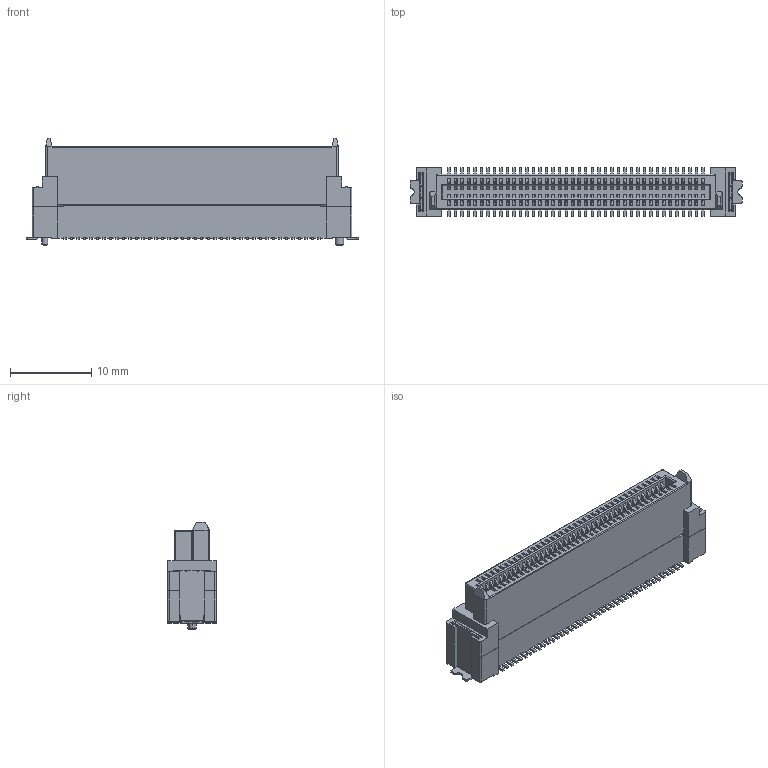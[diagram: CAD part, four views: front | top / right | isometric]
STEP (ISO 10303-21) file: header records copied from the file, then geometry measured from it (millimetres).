
FILE_DESCRIPTION(('CATIA V5 STEP Exchange'),'2;1');
FILE_NAME('F:\黄富鸿\板对板\PBB08D\母座\H11.4\HC-PBB08D-1-80-F-H11.4-XX-R-P-06 (BTB0.8 单槽 D型母座 立贴 带柱 编带)-HCTL.stp','2026-02-04T10:03:47+00:00',('none'),('none'),'CATIA Version 5 Release 20 GA (IN-10)','CATIA V5 STEP AP203','none');
FILE_SCHEMA(('CONFIG_CONTROL_DESIGN'));
Products named in the file (1): Part1
Bounding box: 40.8 x 6 x 13.15 mm (x, y, z)
Volume: 1137.9 mm3; surface area: 5486.5 mm2
Topology: 84 solids, 84 shells, 4149 faces, 12320 edges, 8100 vertices
Faces by surface type: plane 3129, cylinder 1014, cone 4, torus 2
Entity records: 128721 total; most frequent: ORIENTED_EDGE 24640, CARTESIAN_POINT 23197, DIRECTION 17656, EDGE_CURVE 12320, VECTOR 10258, LINE 10258, VERTEX_POINT 8100, AXIS2_PLACEMENT_3D 4711
